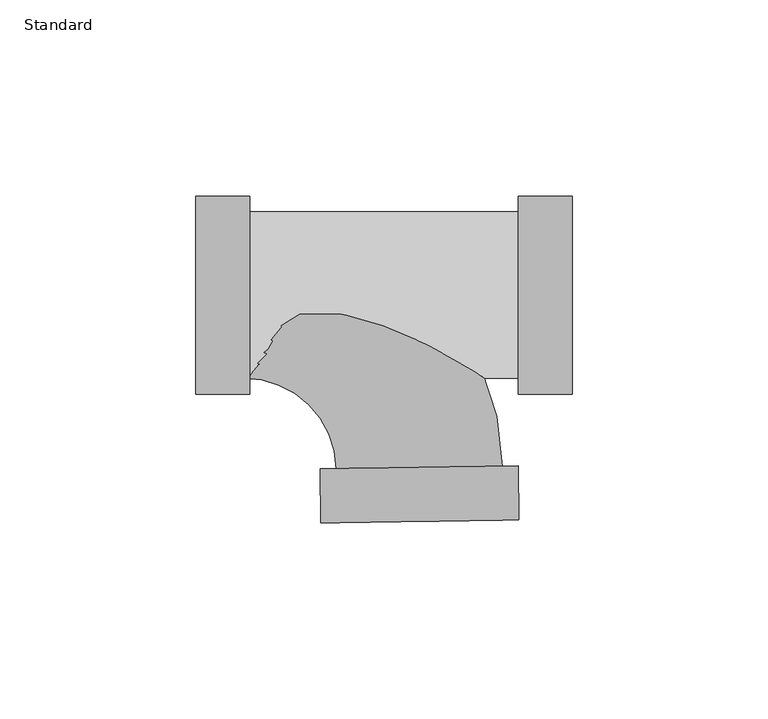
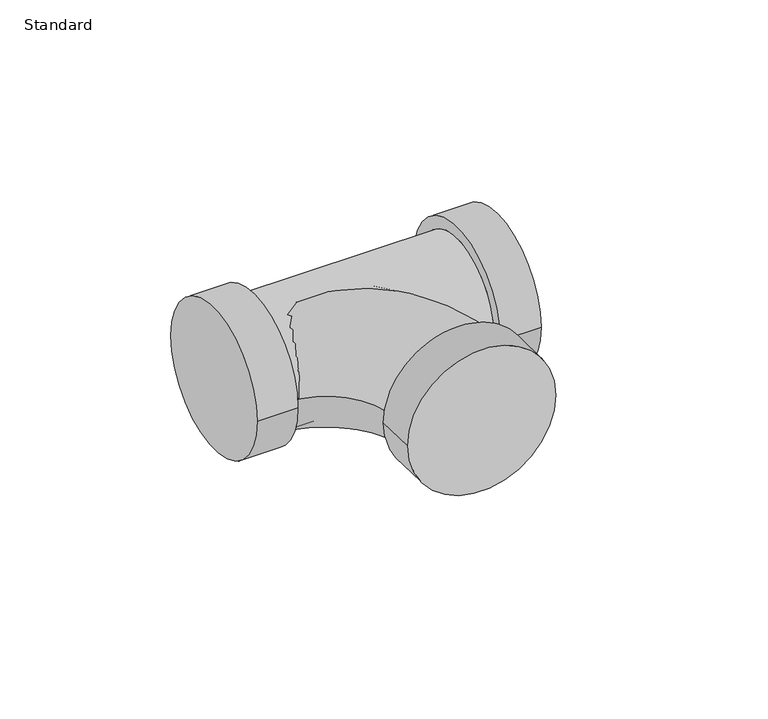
"""IFC4 building model written with IfcOpenShell, lengths in millimetres: pipe fitting geometry, EG-RCAN Té sanitaire de réduction - PVC - Nom. 40 - DWV : Standard."""

from ifc_helpers import new_model, si_unit, point, frame, origin, place, context, project, spatial, circle_curve, ellipse_curve, trimmed, source, transform, mapped, element, save
from ifc_brep_helpers import plane_surface, cylinder_surface, revolved_surface, advanced_brep


def standard_00a71b56(model_context):
    return source(origin(), model_context, "Body", "AdvancedBrep", [
        advanced_brep(
        [(25.9206512, -25.2671094, 0.0), (25.9206512, 25.2671094, 0.0), (25.9206512, -21.2040625, 0.0), (25.9206512, 21.2040625, 0.0), (39.6609637, -25.2671094, 0.0), (39.6609637, 25.2671094, 0.0), (-42.5238262, 21.2040625, 0.0), (-42.5238262, -21.2040625, 0.0), (-56.2641387, -25.2671094, 0.0), (-56.2641387, 25.2671094, 0.0), (-42.5238262, -25.2671094, 0.0), (-42.5238262, 25.2671094, 0.0)],
        [
            (0, 1, circle_curve(frame((25.9206512, 0.0, 0.0), z_axis=(-1.0, 0.0, 0.0), x_axis=(0.0, 1.0, 0.0)), 25.2671094)),
            (1, 0, circle_curve(frame((25.9206512, 0.0, 0.0), z_axis=(-1.0, 0.0, 0.0), x_axis=(0.0, 1.0, 0.0)), 25.2671094)),
            (2, 3, circle_curve(frame((25.9206512, 0.0, 0.0), z_axis=(1.0, 0.0, 0.0), x_axis=(0.0, 0.0, -1.0)), 21.2040625)),
            (3, 2, circle_curve(frame((25.9206512, 0.0, 0.0), z_axis=(1.0, 0.0, 0.0), x_axis=(0.0, 0.0, 1.0)), 21.2040625)),
            (4, 5, circle_curve(frame((39.6609637, 0.0, 0.0), z_axis=(1.0, 0.0, 0.0), x_axis=(0.0, 1.0, 0.0)), 25.2671094)),
            (5, 4, circle_curve(frame((39.6609637, 0.0, 0.0), z_axis=(1.0, 0.0, 0.0), x_axis=(0.0, 1.0, 0.0)), 25.2671094)),
            (0, 4),
            (5, 1),
            (6, 3),
            (2, 7),
            (7, 6, circle_curve(frame((-42.5238262, 0.0, 0.0), z_axis=(1.0, 0.0, 0.0), x_axis=(0.0, 0.0, -1.0)), 21.2040625)),
            (6, 7, circle_curve(frame((-42.5238262, 0.0, 0.0), z_axis=(1.0, 0.0, 0.0), x_axis=(0.0, 0.0, 1.0)), 21.2040625)),
            (8, 9, circle_curve(frame((-56.2641387, 0.0, 0.0), z_axis=(-1.0, 0.0, 0.0), x_axis=(0.0, 1.0, 0.0)), 25.2671094)),
            (9, 8, circle_curve(frame((-56.2641387, 0.0, 0.0), z_axis=(-1.0, 0.0, 0.0), x_axis=(0.0, 1.0, 0.0)), 25.2671094)),
            (10, 11, circle_curve(frame((-42.5238262, 0.0, 0.0), z_axis=(1.0, 0.0, 0.0), x_axis=(0.0, 1.0, 0.0)), 25.2671094)),
            (11, 10, circle_curve(frame((-42.5238262, 0.0, 0.0), z_axis=(1.0, 0.0, 0.0), x_axis=(0.0, 1.0, 0.0)), 25.2671094)),
            (8, 10),
            (11, 9),
        ],
        [
            plane_surface(frame((25.9206512, 0.0, 0.0), z_axis=(-1.0, 0.0, 0.0), x_axis=(0.0, 0.0, 1.0))),
            plane_surface(frame((39.6609637, 0.0, 0.0), z_axis=(1.0, 0.0, 0.0), x_axis=(0.0, 0.0, 1.0))),
            cylinder_surface(frame((25.9206512, 0.0, 0.0), z_axis=(-1.0, 0.0, 0.0), x_axis=(0.0, 1.0, 0.0)), 25.2671094),
            cylinder_surface(frame((-42.5238262, 0.0, 0.0), z_axis=(1.0, 0.0, 0.0), x_axis=(0.0, 0.0, -1.0)), 21.2040625),
            cylinder_surface(frame((-42.5238262, 0.0, 0.0), z_axis=(1.0, 0.0, 0.0), x_axis=(0.0, 0.0, 1.0)), 21.2040625),
            plane_surface(frame((-56.2641387, 0.0, 0.0), z_axis=(-1.0, 0.0, 0.0), x_axis=(0.0, 0.0, 1.0))),
            plane_surface(frame((-42.5238262, 0.0, 0.0), z_axis=(1.0, 0.0, 0.0), x_axis=(0.0, 0.0, 1.0))),
            cylinder_surface(frame((-56.2641387, 0.0, 0.0), z_axis=(-1.0, 0.0, 0.0), x_axis=(0.0, 1.0, 0.0)), 25.2671094),
        ],
        [
            (0, [[1, 2], [3, 4]]),
            (1, [[5, 6]]),
            (2, [[-1, 7, -6, 8]]),
            (2, [[-2, -8, -5, -7]]),
            (3, [[9, -3, 10, 11]]),
            (4, [[-9, 12, -10, -4]]),
            (5, [[13, 14]]),
            (6, [[15, 16], [-11, -12]]),
            (7, [[-13, 17, -16, 18]]),
            (7, [[-14, -18, -15, -17]]),
        ],
    ),
        advanced_brep(
        [(-24.6079416, -44.3597783, 0.0), (25.9206512, -43.60574, 0.0), (21.8580567, -43.6663661, 0.0), (-20.5453471, -44.2991522, 0.0), (-24.4029177, -58.0985611, 0.0), (26.1256751, -57.3445228, 0.0), (-43.9876562, -21.2040625, 0.0), (-43.9876562, 21.2040625, 0.0)],
        [
            (0, 1, circle_curve(frame((0.6563548, -43.9827591, 0.0), z_axis=(-0.014921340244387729, 0.9998886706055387, 0.0), x_axis=(0.9998886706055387, 0.014921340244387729, 0.0)), 25.2671094)),
            (1, 0, circle_curve(frame((0.6563548, -43.9827591, 0.0), z_axis=(-0.014921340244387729, 0.9998886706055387, 0.0), x_axis=(0.9998886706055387, 0.014921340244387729, 0.0)), 25.2671094)),
            (2, 3, circle_curve(frame((0.6563548, -43.9827591, 0.0), z_axis=(0.014921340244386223, -0.9998886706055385, 0.0), x_axis=(0.9998886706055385, 0.014921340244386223, 0.0)), 21.2040625)),
            (3, 2, circle_curve(frame((0.6563548, -43.9827591, 0.0), z_axis=(0.014921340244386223, -0.9998886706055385, 0.0), x_axis=(0.9998886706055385, 0.014921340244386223, 0.0)), 21.2040625)),
            (4, 5, circle_curve(frame((0.8613787, -57.7215419, 0.0), z_axis=(0.014921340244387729, -0.9998886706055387, 0.0), x_axis=(0.9998886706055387, 0.014921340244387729, 0.0)), 25.2671094)),
            (5, 4, circle_curve(frame((0.8613787, -57.7215419, 0.0), z_axis=(0.014921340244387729, -0.9998886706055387, 0.0), x_axis=(0.9998886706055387, 0.014921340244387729, 0.0)), 25.2671094)),
            (0, 4),
            (5, 1),
            (6, 7, circle_curve(frame((-43.9876562, 0.0, 0.0), z_axis=(-1.0, 0.0, 0.0), x_axis=(0.0, 1.0, 0.0)), 21.2040625)),
            (7, 6, circle_curve(frame((-43.9876562, 0.0, 0.0), z_axis=(-1.0, 0.0, 0.0), x_axis=(0.0, 1.0, 0.0)), 21.2040625)),
            (6, 3, circle_curve(frame((-43.9876562, -44.6489818, 0.0), z_axis=(0.0, 0.0, -1.0), x_axis=(0.0, 1.0, 0.0)), 23.4449193)),
            (2, 7, circle_curve(frame((-43.9876562, -44.6489818, 0.0), z_axis=(0.0, 0.0, 1.0), x_axis=(0.0, 1.0, 0.0)), 65.8530443)),
        ],
        [
            plane_surface(frame((0.6563548, -43.9827591, 0.0), z_axis=(-0.014921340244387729, 0.9998886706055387, 0.0), x_axis=(0.0, 0.0, 1.0))),
            plane_surface(frame((0.8613787, -57.7215419, 0.0), z_axis=(0.014921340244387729, -0.9998886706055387, 0.0), x_axis=(0.0, 0.0, 1.0))),
            cylinder_surface(frame((0.6563548, -43.9827591, 0.0), z_axis=(-0.014921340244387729, 0.9998886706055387, 0.0), x_axis=(0.9998886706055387, 0.014921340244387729, 0.0)), 25.2671094),
            plane_surface(frame((-43.9876562, 0.0, 0.0), z_axis=(-1.0, 0.0, 0.0), x_axis=(0.0, 0.0, 1.0))),
            revolved_surface(trimmed(ellipse_curve(frame((-43.9876562, 0.0, 0.0), z_axis=(-1.0, 0.0, 0.0), x_axis=(0.0, 1.0, 0.0)), 21.2040625, 21.2040625), [point((-43.9876562, -21.2040625, 0.0))], [point((-43.9876562, 21.2040625, 0.0))], True, "CARTESIAN"), (-43.9876562, -44.6489818, 0.0), (0.0, 0.0, -1.0)),
            revolved_surface(trimmed(ellipse_curve(frame((-43.9876562, 0.0, 0.0), z_axis=(-1.0, 0.0, 0.0), x_axis=(0.0, 1.0, 0.0)), 21.2040625, 21.2040625), [point((-43.9876562, 21.2040625, 0.0))], [point((-43.9876562, -21.2040625, 0.0))], True, "CARTESIAN"), (-43.9876562, -44.6489818, 0.0), (0.0, 0.0, -1.0)),
        ],
        [
            (0, [[1, 2], [3, 4]]),
            (1, [[5, 6]]),
            (2, [[-1, 7, -6, 8]]),
            (2, [[-2, -8, -5, -7]]),
            (3, [[9, 10]]),
            (4, [[-9, 11, -3, 12]]),
            (5, [[-10, -12, -4, -11]]),
        ],
    ),
    ])


if __name__ == "__main__":
    model = new_model("IFC4")
    model_context = context("Model", 3, world=origin())
    ifc_project = project(units=[si_unit("LENGTHUNIT", "METRE", prefix="MILLI")], contexts=[model_context])
    site = spatial("IfcSite", under=ifc_project)
    building = spatial("IfcBuilding", under=site)
    placement = place(None, origin())
    standard_shape = standard_00a71b56(model_context)
    element("IfcPipeFitting", 1, ObjectType="EG-RCAN Té sanitaire de réduction - PVC - Nom. 40 - DWV : Standard", at=placement, inside=building, context=model_context, shape_type="MappedRepresentation", body=[
        mapped(standard_shape, transform((0.0, 0.0, 0.0), x_axis=(1.0, 0.0, 0.0), y_axis=(0.0, 1.0, 0.0), z_axis=(0.0, 0.0, 1.0))),
    ])
    save(model, "model.ifc")
